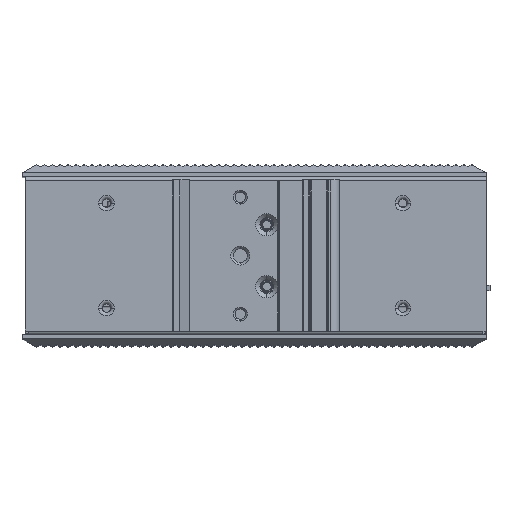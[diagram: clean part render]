
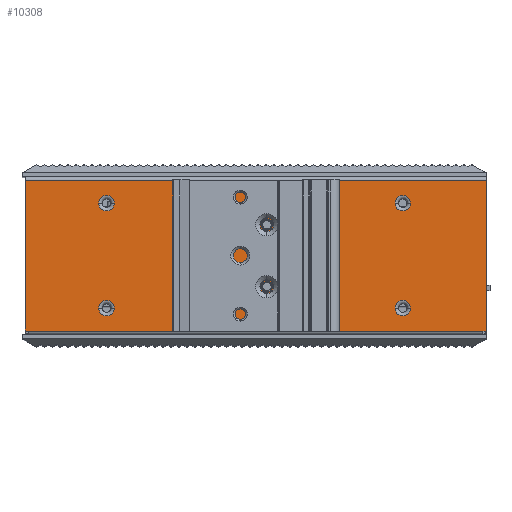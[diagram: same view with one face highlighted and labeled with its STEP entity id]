
A CAD part, top view. The second image highlights one B-rep face of the part: STEP entity #10308.
In plain terms, the highlighted planar face has unit normal (0, 0, 1).
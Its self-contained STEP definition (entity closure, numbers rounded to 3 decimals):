
#325=DIRECTION('',(-1.,0.,0.));
#326=VECTOR('',#325,1.);
#327=CARTESIAN_POINT('',(66.66,0.,46.3));
#328=LINE('',#327,#326);
#409=DIRECTION('',(-1.,0.,0.));
#410=VECTOR('',#409,1.);
#411=CARTESIAN_POINT('',(-66.34,0.,46.3));
#412=LINE('',#411,#410);
#421=DIRECTION('',(0.,-1.,0.));
#422=VECTOR('',#421,43.8);
#423=CARTESIAN_POINT('',(-67.34,43.8,46.3));
#424=LINE('',#423,#422);
#425=DIRECTION('',(0.,1.,0.));
#426=VECTOR('',#425,43.8);
#427=CARTESIAN_POINT('',(66.66,0.,46.3));
#428=LINE('',#427,#426);
#429=CARTESIAN_POINT('',(2.83,30.9,46.3));
#430=DIRECTION('',(0.,0.,-1.));
#431=DIRECTION('',(1.,0.,0.));
#432=AXIS2_PLACEMENT_3D('',#429,#430,#431);
#434=CARTESIAN_POINT('',(2.83,30.9,46.3));
#435=DIRECTION('',(0.,0.,-1.));
#436=DIRECTION('',(-1.,0.,0.));
#437=AXIS2_PLACEMENT_3D('',#434,#435,#436);
#439=CARTESIAN_POINT('',(2.83,12.9,46.3));
#440=DIRECTION('',(0.,0.,-1.));
#441=DIRECTION('',(1.,0.,0.));
#442=AXIS2_PLACEMENT_3D('',#439,#440,#441);
#444=CARTESIAN_POINT('',(2.83,12.9,46.3));
#445=DIRECTION('',(0.,0.,-1.));
#446=DIRECTION('',(-1.,0.,0.));
#447=AXIS2_PLACEMENT_3D('',#444,#445,#446);
#449=CARTESIAN_POINT('',(42.36,6.65,46.3));
#450=DIRECTION('',(0.,0.,-1.));
#451=DIRECTION('',(-1.,0.,0.));
#452=AXIS2_PLACEMENT_3D('',#449,#450,#451);
#454=CARTESIAN_POINT('',(42.36,6.65,46.3));
#455=DIRECTION('',(0.,0.,-1.));
#456=DIRECTION('',(1.,0.,0.));
#457=AXIS2_PLACEMENT_3D('',#454,#455,#456);
#459=CARTESIAN_POINT('',(42.36,37.15,46.3));
#460=DIRECTION('',(0.,0.,-1.));
#461=DIRECTION('',(-1.,0.,0.));
#462=AXIS2_PLACEMENT_3D('',#459,#460,#461);
#464=CARTESIAN_POINT('',(42.36,37.15,46.3));
#465=DIRECTION('',(0.,0.,-1.));
#466=DIRECTION('',(1.,0.,0.));
#467=AXIS2_PLACEMENT_3D('',#464,#465,#466);
#469=CARTESIAN_POINT('',(-43.78,6.65,46.3));
#470=DIRECTION('',(0.,0.,-1.));
#471=DIRECTION('',(-1.,0.,0.));
#472=AXIS2_PLACEMENT_3D('',#469,#470,#471);
#474=CARTESIAN_POINT('',(-43.78,6.65,46.3));
#475=DIRECTION('',(0.,0.,-1.));
#476=DIRECTION('',(1.,0.,0.));
#477=AXIS2_PLACEMENT_3D('',#474,#475,#476);
#479=CARTESIAN_POINT('',(-43.78,37.15,46.3));
#480=DIRECTION('',(0.,0.,-1.));
#481=DIRECTION('',(-1.,0.,0.));
#482=AXIS2_PLACEMENT_3D('',#479,#480,#481);
#484=CARTESIAN_POINT('',(-43.78,37.15,46.3));
#485=DIRECTION('',(0.,0.,-1.));
#486=DIRECTION('',(1.,0.,0.));
#487=AXIS2_PLACEMENT_3D('',#484,#485,#486);
#493=DIRECTION('',(-1.,0.,0.));
#494=VECTOR('',#493,132.);
#495=CARTESIAN_POINT('',(65.66,0.,46.3));
#496=LINE('',#495,#494);
#6722=DIRECTION('',(1.,0.,0.));
#6723=VECTOR('',#6722,134.);
#6724=CARTESIAN_POINT('',(-67.34,43.8,46.3));
#6725=LINE('',#6724,#6723);
#6751=CARTESIAN_POINT('',(42.36,6.65,46.3));
#6752=DIRECTION('',(0.,0.,1.));
#6753=DIRECTION('',(1.,0.,0.));
#6754=AXIS2_PLACEMENT_3D('',#6751,#6752,#6753);
#6771=CARTESIAN_POINT('',(42.36,6.65,46.3));
#6772=DIRECTION('',(0.,0.,1.));
#6773=DIRECTION('',(-1.,0.,0.));
#6774=AXIS2_PLACEMENT_3D('',#6771,#6772,#6773);
#6835=CARTESIAN_POINT('',(42.36,37.15,46.3));
#6836=DIRECTION('',(0.,0.,1.));
#6837=DIRECTION('',(1.,0.,0.));
#6838=AXIS2_PLACEMENT_3D('',#6835,#6836,#6837);
#6855=CARTESIAN_POINT('',(42.36,37.15,46.3));
#6856=DIRECTION('',(0.,0.,1.));
#6857=DIRECTION('',(-1.,0.,0.));
#6858=AXIS2_PLACEMENT_3D('',#6855,#6856,#6857);
#6919=CARTESIAN_POINT('',(-43.78,6.65,46.3));
#6920=DIRECTION('',(0.,0.,1.));
#6921=DIRECTION('',(1.,0.,0.));
#6922=AXIS2_PLACEMENT_3D('',#6919,#6920,#6921);
#6939=CARTESIAN_POINT('',(-43.78,6.65,46.3));
#6940=DIRECTION('',(0.,0.,1.));
#6941=DIRECTION('',(-1.,0.,0.));
#6942=AXIS2_PLACEMENT_3D('',#6939,#6940,#6941);
#7003=CARTESIAN_POINT('',(-43.78,37.15,46.3));
#7004=DIRECTION('',(0.,0.,1.));
#7005=DIRECTION('',(1.,0.,0.));
#7006=AXIS2_PLACEMENT_3D('',#7003,#7004,#7005);
#7023=CARTESIAN_POINT('',(-43.78,37.15,46.3));
#7024=DIRECTION('',(0.,0.,1.));
#7025=DIRECTION('',(-1.,0.,0.));
#7026=AXIS2_PLACEMENT_3D('',#7023,#7024,#7025);
#7586=CARTESIAN_POINT('',(-66.34,0.,46.3));
#7587=VERTEX_POINT('',#7586);
#7588=CARTESIAN_POINT('',(-67.34,0.,46.3));
#7589=VERTEX_POINT('',#7588);
#7590=CARTESIAN_POINT('',(66.66,0.,46.3));
#7591=VERTEX_POINT('',#7590);
#7592=CARTESIAN_POINT('',(65.66,0.,46.3));
#7593=VERTEX_POINT('',#7592);
#7644=CARTESIAN_POINT('',(-67.34,43.8,46.3));
#7645=VERTEX_POINT('',#7644);
#7646=CARTESIAN_POINT('',(66.66,43.8,46.3));
#7647=VERTEX_POINT('',#7646);
#7712=CARTESIAN_POINT('',(1.33,30.9,46.3));
#7713=VERTEX_POINT('',#7712);
#7714=CARTESIAN_POINT('',(4.33,30.9,46.3));
#7715=VERTEX_POINT('',#7714);
#7784=CARTESIAN_POINT('',(1.33,12.9,46.3));
#7785=VERTEX_POINT('',#7784);
#7786=CARTESIAN_POINT('',(4.33,12.9,46.3));
#7787=VERTEX_POINT('',#7786);
#8018=CARTESIAN_POINT('',(44.61,6.649,46.3));
#8019=CARTESIAN_POINT('',(44.61,6.687,46.3));
#8020=VERTEX_POINT('',#8018);
#8021=VERTEX_POINT('',#8019);
#8022=CARTESIAN_POINT('',(40.11,6.651,46.3));
#8023=VERTEX_POINT('',#8022);
#8078=CARTESIAN_POINT('',(44.61,37.149,46.3));
#8079=CARTESIAN_POINT('',(44.61,37.187,46.3));
#8080=VERTEX_POINT('',#8078);
#8081=VERTEX_POINT('',#8079);
#8082=CARTESIAN_POINT('',(40.11,37.151,46.3));
#8083=VERTEX_POINT('',#8082);
#8084=CARTESIAN_POINT('',(40.11,6.613,46.3));
#8085=VERTEX_POINT('',#8084);
#8134=CARTESIAN_POINT('',(-41.53,6.649,46.3));
#8135=CARTESIAN_POINT('',(-41.53,6.687,46.3));
#8136=VERTEX_POINT('',#8134);
#8137=VERTEX_POINT('',#8135);
#8138=CARTESIAN_POINT('',(-46.03,6.651,46.3));
#8139=VERTEX_POINT('',#8138);
#8140=CARTESIAN_POINT('',(40.11,37.113,46.3));
#8141=VERTEX_POINT('',#8140);
#8200=CARTESIAN_POINT('',(-41.53,37.149,46.3));
#8201=CARTESIAN_POINT('',(-41.53,37.187,46.3));
#8202=VERTEX_POINT('',#8200);
#8203=VERTEX_POINT('',#8201);
#8204=CARTESIAN_POINT('',(-46.03,37.151,46.3));
#8205=VERTEX_POINT('',#8204);
#8206=CARTESIAN_POINT('',(-46.03,6.613,46.3));
#8207=VERTEX_POINT('',#8206);
#8256=CARTESIAN_POINT('',(-46.03,37.113,46.3));
#8257=VERTEX_POINT('',#8256);
#10239=CARTESIAN_POINT('',(-66.34,0.,46.3));
#10240=DIRECTION('',(0.,0.,-1.));
#10241=DIRECTION('',(-1.,0.,0.));
#10242=AXIS2_PLACEMENT_3D('',#10239,#10240,#10241);
#10243=PLANE('',#10242);
#10244=ORIENTED_EDGE('',*,*,#10162,.T.);
#10246=ORIENTED_EDGE('',*,*,#10245,.T.);
#10247=ORIENTED_EDGE('',*,*,#10229,.T.);
#10249=ORIENTED_EDGE('',*,*,#10248,.F.);
#10251=ORIENTED_EDGE('',*,*,#10250,.T.);
#10253=ORIENTED_EDGE('',*,*,#10252,.F.);
#10254=EDGE_LOOP('',(#10244,#10246,#10247,#10249,#10251,#10253));
#10255=FACE_OUTER_BOUND('',#10254,.F.);
#10257=ORIENTED_EDGE('',*,*,#10256,.F.);
#10259=ORIENTED_EDGE('',*,*,#10258,.F.);
#10260=EDGE_LOOP('',(#10257,#10259));
#10261=FACE_BOUND('',#10260,.F.);
#10263=ORIENTED_EDGE('',*,*,#10262,.F.);
#10265=ORIENTED_EDGE('',*,*,#10264,.F.);
#10266=EDGE_LOOP('',(#10263,#10265));
#10267=FACE_BOUND('',#10266,.F.);
#10269=ORIENTED_EDGE('',*,*,#10268,.F.);
#10271=ORIENTED_EDGE('',*,*,#10270,.T.);
#10273=ORIENTED_EDGE('',*,*,#10272,.F.);
#10275=ORIENTED_EDGE('',*,*,#10274,.T.);
#10276=EDGE_LOOP('',(#10269,#10271,#10273,#10275));
#10277=FACE_BOUND('',#10276,.F.);
#10279=ORIENTED_EDGE('',*,*,#10278,.F.);
#10281=ORIENTED_EDGE('',*,*,#10280,.T.);
#10283=ORIENTED_EDGE('',*,*,#10282,.F.);
#10285=ORIENTED_EDGE('',*,*,#10284,.T.);
#10286=EDGE_LOOP('',(#10279,#10281,#10283,#10285));
#10287=FACE_BOUND('',#10286,.F.);
#10289=ORIENTED_EDGE('',*,*,#10288,.F.);
#10291=ORIENTED_EDGE('',*,*,#10290,.T.);
#10293=ORIENTED_EDGE('',*,*,#10292,.F.);
#10295=ORIENTED_EDGE('',*,*,#10294,.T.);
#10296=EDGE_LOOP('',(#10289,#10291,#10293,#10295));
#10297=FACE_BOUND('',#10296,.F.);
#10299=ORIENTED_EDGE('',*,*,#10298,.F.);
#10301=ORIENTED_EDGE('',*,*,#10300,.T.);
#10303=ORIENTED_EDGE('',*,*,#10302,.F.);
#10305=ORIENTED_EDGE('',*,*,#10304,.T.);
#10306=EDGE_LOOP('',(#10299,#10301,#10303,#10305));
#10307=FACE_BOUND('',#10306,.F.);
#10308=ADVANCED_FACE('',(#10255,#10261,#10267,#10277,#10287,#10297,#10307),
#10243,.F.);
#433=CIRCLE('',#432,1.5);
#438=CIRCLE('',#437,1.5);
#443=CIRCLE('',#442,1.5);
#448=CIRCLE('',#447,1.5);
#453=CIRCLE('',#452,2.25);
#458=CIRCLE('',#457,2.25);
#463=CIRCLE('',#462,2.25);
#468=CIRCLE('',#467,2.25);
#473=CIRCLE('',#472,2.25);
#478=CIRCLE('',#477,2.25);
#483=CIRCLE('',#482,2.25);
#488=CIRCLE('',#487,2.25);
#6755=CIRCLE('',#6754,2.25);
#6775=CIRCLE('',#6774,2.25);
#6839=CIRCLE('',#6838,2.25);
#6859=CIRCLE('',#6858,2.25);
#6923=CIRCLE('',#6922,2.25);
#6943=CIRCLE('',#6942,2.25);
#7007=CIRCLE('',#7006,2.25);
#7027=CIRCLE('',#7026,2.25);
#10162=EDGE_CURVE('',#7591,#7593,#328,.T.);
#10229=EDGE_CURVE('',#7587,#7589,#412,.T.);
#10245=EDGE_CURVE('',#7593,#7587,#496,.T.);
#10248=EDGE_CURVE('',#7645,#7589,#424,.T.);
#10250=EDGE_CURVE('',#7645,#7647,#6725,.T.);
#10252=EDGE_CURVE('',#7591,#7647,#428,.T.);
#10256=EDGE_CURVE('',#7715,#7713,#433,.T.);
#10258=EDGE_CURVE('',#7713,#7715,#438,.T.);
#10262=EDGE_CURVE('',#7787,#7785,#443,.T.);
#10264=EDGE_CURVE('',#7785,#7787,#448,.T.);
#10268=EDGE_CURVE('',#8023,#8021,#453,.T.);
#10270=EDGE_CURVE('',#8023,#8085,#6775,.T.);
#10272=EDGE_CURVE('',#8020,#8085,#458,.T.);
#10274=EDGE_CURVE('',#8020,#8021,#6755,.T.);
#10278=EDGE_CURVE('',#8083,#8081,#463,.T.);
#10280=EDGE_CURVE('',#8083,#8141,#6859,.T.);
#10282=EDGE_CURVE('',#8080,#8141,#468,.T.);
#10284=EDGE_CURVE('',#8080,#8081,#6839,.T.);
#10288=EDGE_CURVE('',#8139,#8137,#473,.T.);
#10290=EDGE_CURVE('',#8139,#8207,#6943,.T.);
#10292=EDGE_CURVE('',#8136,#8207,#478,.T.);
#10294=EDGE_CURVE('',#8136,#8137,#6923,.T.);
#10298=EDGE_CURVE('',#8205,#8203,#483,.T.);
#10300=EDGE_CURVE('',#8205,#8257,#7027,.T.);
#10302=EDGE_CURVE('',#8202,#8257,#488,.T.);
#10304=EDGE_CURVE('',#8202,#8203,#7007,.T.);
